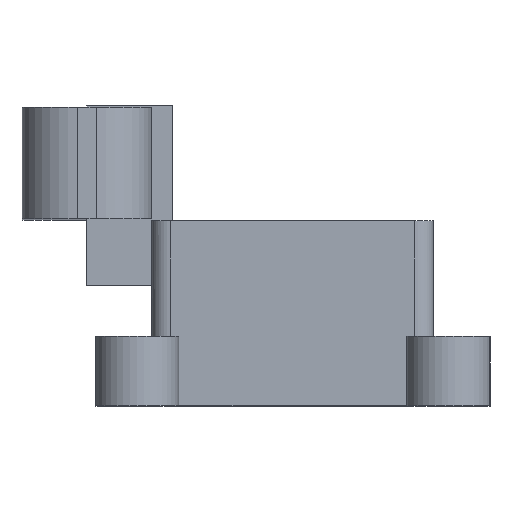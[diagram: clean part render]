
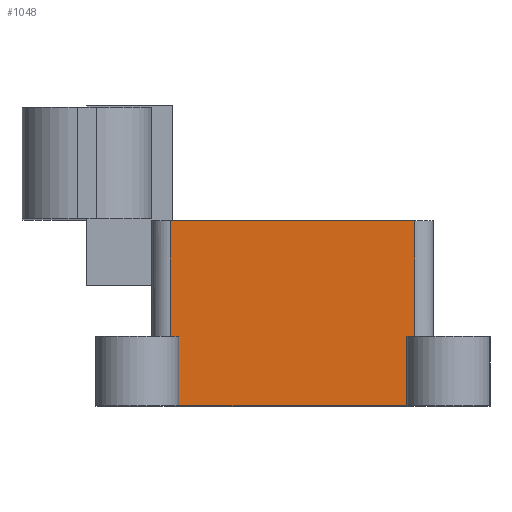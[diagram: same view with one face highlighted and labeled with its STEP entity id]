
A CAD part, top view. The second image highlights one B-rep face of the part: STEP entity #1048.
In plain terms, the highlighted planar face has unit normal (0, 0, 1).
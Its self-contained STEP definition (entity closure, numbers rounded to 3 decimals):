
#753 = VERTEX_POINT('',#754);
#754 = CARTESIAN_POINT('',(181.,-277.04,572.78));
#761 = EDGE_CURVE('',#753,#762,#764,.T.);
#762 = VERTEX_POINT('',#763);
#763 = CARTESIAN_POINT('',(207.363,-277.04,572.78));
#764 = LINE('',#765,#766);
#765 = CARTESIAN_POINT('',(181.,-277.04,572.78));
#766 = VECTOR('',#767,1.);
#767 = DIRECTION('',(1.,0.,-0.));
#1011 = EDGE_CURVE('',#1012,#762,#1014,.T.);
#1012 = VERTEX_POINT('',#1013);
#1013 = CARTESIAN_POINT('',(207.363,-289.5,572.78));
#1014 = LINE('',#1015,#1016);
#1015 = CARTESIAN_POINT('',(207.363,-297.,572.78));
#1016 = VECTOR('',#1017,1.);
#1017 = DIRECTION('',(-0.,1.,0.));
#1048 = ADVANCED_FACE('',(#1049),#1099,.T.);
#1049 = FACE_BOUND('',#1050,.T.);
#1050 = EDGE_LOOP('',(#1051,#1059,#1067,#1075,#1083,#1091,#1097,#1098));
#1051 = ORIENTED_EDGE('',*,*,#1052,.F.);
#1052 = EDGE_CURVE('',#1053,#753,#1055,.T.);
#1053 = VERTEX_POINT('',#1054);
#1054 = CARTESIAN_POINT('',(181.,-289.5,572.78));
#1055 = LINE('',#1056,#1057);
#1056 = CARTESIAN_POINT('',(181.,-297.,572.78));
#1057 = VECTOR('',#1058,1.);
#1058 = DIRECTION('',(-0.,1.,0.));
#1059 = ORIENTED_EDGE('',*,*,#1060,.F.);
#1060 = EDGE_CURVE('',#1061,#1053,#1063,.T.);
#1061 = VERTEX_POINT('',#1062);
#1062 = CARTESIAN_POINT('',(181.268,-289.5,572.78));
#1063 = LINE('',#1064,#1065);
#1064 = CARTESIAN_POINT('',(179.2,-289.5,572.78));
#1065 = VECTOR('',#1066,1.);
#1066 = DIRECTION('',(-1.,0.,0.));
#1067 = ORIENTED_EDGE('',*,*,#1068,.F.);
#1068 = EDGE_CURVE('',#1069,#1061,#1071,.T.);
#1069 = VERTEX_POINT('',#1070);
#1070 = CARTESIAN_POINT('',(181.268,-297.,572.78));
#1071 = LINE('',#1072,#1073);
#1072 = CARTESIAN_POINT('',(181.268,-297.,572.78));
#1073 = VECTOR('',#1074,1.);
#1074 = DIRECTION('',(0.,1.,0.));
#1075 = ORIENTED_EDGE('',*,*,#1076,.T.);
#1076 = EDGE_CURVE('',#1069,#1077,#1079,.T.);
#1077 = VERTEX_POINT('',#1078);
#1078 = CARTESIAN_POINT('',(207.096,-297.,572.78));
#1079 = LINE('',#1080,#1081);
#1080 = CARTESIAN_POINT('',(181.,-297.,572.78));
#1081 = VECTOR('',#1082,1.);
#1082 = DIRECTION('',(1.,0.,-0.));
#1083 = ORIENTED_EDGE('',*,*,#1084,.T.);
#1084 = EDGE_CURVE('',#1077,#1085,#1087,.T.);
#1085 = VERTEX_POINT('',#1086);
#1086 = CARTESIAN_POINT('',(207.096,-289.5,572.78));
#1087 = LINE('',#1088,#1089);
#1088 = CARTESIAN_POINT('',(207.096,-297.,572.78));
#1089 = VECTOR('',#1090,1.);
#1090 = DIRECTION('',(0.,1.,0.));
#1091 = ORIENTED_EDGE('',*,*,#1092,.F.);
#1092 = EDGE_CURVE('',#1012,#1085,#1093,.T.);
#1093 = LINE('',#1094,#1095);
#1094 = CARTESIAN_POINT('',(195.982,-289.5,572.78));
#1095 = VECTOR('',#1096,1.);
#1096 = DIRECTION('',(-1.,0.,0.));
#1097 = ORIENTED_EDGE('',*,*,#1011,.T.);
#1098 = ORIENTED_EDGE('',*,*,#761,.F.);
#1099 = PLANE('',#1100);
#1100 = AXIS2_PLACEMENT_3D('',#1101,#1102,#1103);
#1101 = CARTESIAN_POINT('',(181.,-297.,572.78));
#1102 = DIRECTION('',(0.,0.,1.));
#1103 = DIRECTION('',(1.,0.,-0.));
